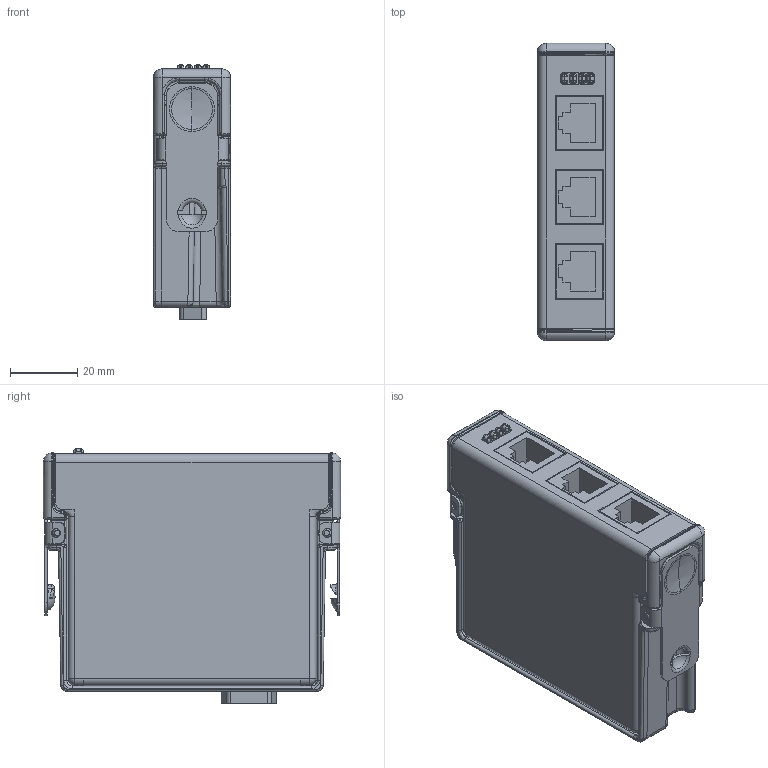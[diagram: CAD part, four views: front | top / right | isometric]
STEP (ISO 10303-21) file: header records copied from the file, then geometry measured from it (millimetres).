
FILE_DESCRIPTION((''),'2;1');
FILE_NAME('CU_CRIO-9469','2013-02-25T',('talbott'),(''),'PRO/ENGINEER BY PARAMETRIC TECHNOLOGY CORPORATION, 2011490','PRO/ENGINEER BY PARAMETRIC TECHNOLOGY CORPORATION, 2011490','');
FILE_SCHEMA(('CONFIG_CONTROL_DESIGN'));
Products named in the file (1): CU_CRIO-9469
Bounding box: 22.86 x 88.11 x 75.51 mm (x, y, z)
Surface area: 51993.5 mm2 (no closed solid volume)
Topology: 0 solids, 20 shells, 1296 faces, 3310 edges, 1979 vertices
Faces by surface type: cylinder 447, plane 429, bspline 294, torus 55, sphere 48, cone 20, extrusion 3
Entity records: 52593 total; most frequent: CARTESIAN_POINT 23942, ORIENTED_EDGE 6187, DIRECTION 5333, EDGE_CURVE 3244, VERTEX_POINT 2017, AXIS2_PLACEMENT_3D 1898, VECTOR 1537, LINE 1534
